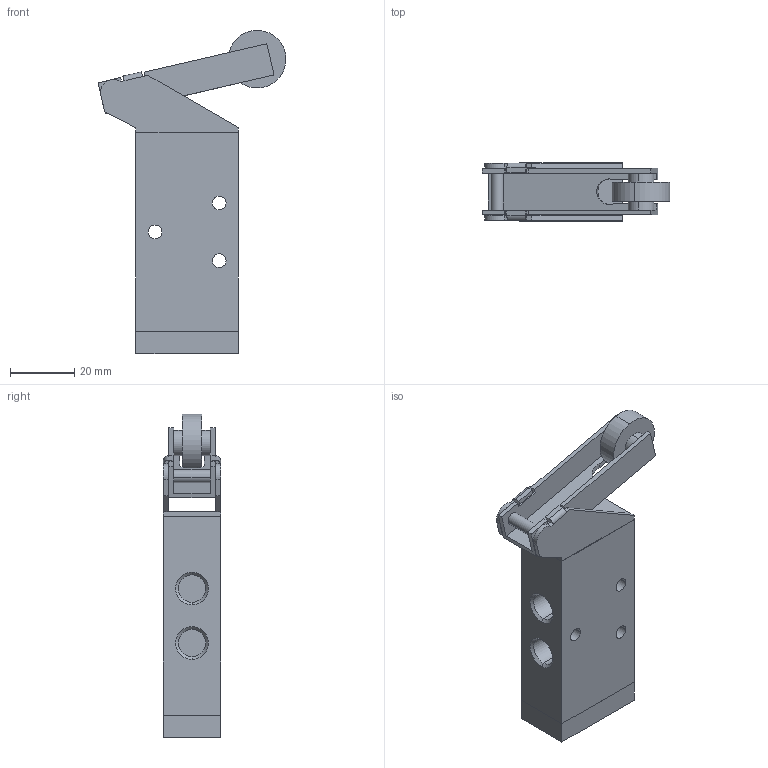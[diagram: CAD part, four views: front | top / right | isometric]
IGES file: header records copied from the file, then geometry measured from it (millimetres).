
Global section: file name: No Iges File Name specified; native system: AutoDesk Inventor R11.0; preprocessor: AutoDesk Inventor Iges Exporter R11.0; author: No Author specified; organization: No Organization specified; date: 20061219.114115; units: millimetre
Bounding box: 58.61 x 18 x 100.84 mm (x, y, z)
Volume: 42793.6 mm3; surface area: 17352.9 mm2
Topology: 3 solids, 3 shells, 120 faces, 284 edges, 180 vertices
Faces by surface type: plane 64, bspline 37, cylinder 12, revolution 7
